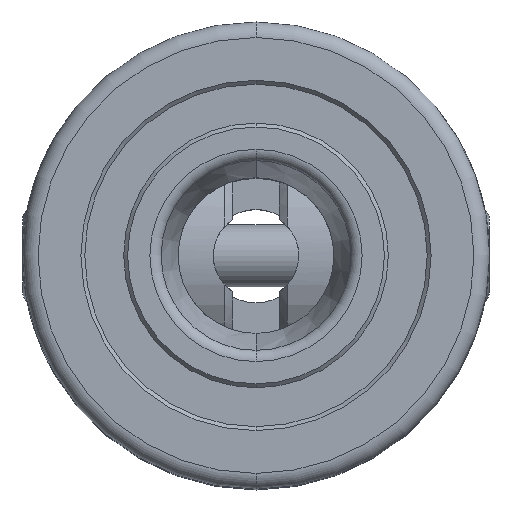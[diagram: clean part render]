
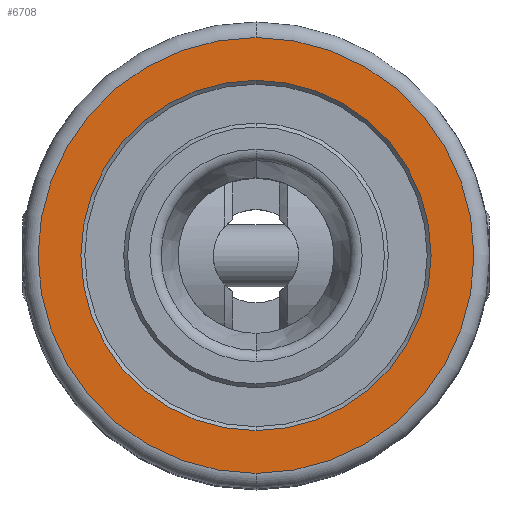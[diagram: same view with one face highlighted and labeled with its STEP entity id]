
A CAD part, top view. The second image highlights one B-rep face of the part: STEP entity #6708.
In plain terms, the highlighted planar face has unit normal (0, 0, 1).
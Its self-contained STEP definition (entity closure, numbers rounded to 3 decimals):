
#60 = CIRCLE ( 'NONE', #7307, 22.5 ) ;
#89 = ORIENTED_EDGE ( 'NONE', *, *, #5779, .T. ) ;
#759 = CIRCLE ( 'NONE', #8491, 28. ) ;
#761 = CIRCLE ( 'NONE', #7845, 22.5 ) ;
#1566 = DIRECTION ( 'NONE',  ( 0., -1., 0. ) ) ;
#1796 = ORIENTED_EDGE ( 'NONE', *, *, #8116, .T. ) ;
#1845 = EDGE_LOOP ( 'NONE', ( #5155, #1796 ) ) ;
#2120 = DIRECTION ( 'NONE',  ( 0., -1., 0. ) ) ;
#2125 = EDGE_CURVE ( 'NONE', #8224, #2561, #60, .T. ) ;
#2331 = VERTEX_POINT ( 'NONE', #8205 ) ;
#2561 = VERTEX_POINT ( 'NONE', #8454 ) ;
#2622 = DIRECTION ( 'NONE',  ( 0., 0., -1. ) ) ;
#3128 = CARTESIAN_POINT ( 'NONE',  ( 0., 0., 80. ) ) ;
#3614 = CARTESIAN_POINT ( 'NONE',  ( 0., 0., 80. ) ) ;
#3665 = ORIENTED_EDGE ( 'NONE', *, *, #2125, .T. ) ;
#4139 = AXIS2_PLACEMENT_3D ( 'NONE', #3128, #5651, #1566 ) ;
#4330 = DIRECTION ( 'NONE',  ( 0., 1., 0. ) ) ;
#4879 = CARTESIAN_POINT ( 'NONE',  ( 0., 0., 80. ) ) ;
#5155 = ORIENTED_EDGE ( 'NONE', *, *, #7927, .T. ) ;
#5198 = DIRECTION ( 'NONE',  ( 0., 0., 1. ) ) ;
#5286 = VERTEX_POINT ( 'NONE', #9377 ) ;
#5651 = DIRECTION ( 'NONE',  ( 0., 0., 1. ) ) ;
#5752 = AXIS2_PLACEMENT_3D ( 'NONE', #6113, #8280, #2120 ) ;
#5779 = EDGE_CURVE ( 'NONE', #2561, #8224, #761, .T. ) ;
#6113 = CARTESIAN_POINT ( 'NONE',  ( 10., 0., 80. ) ) ;
#6708 = ADVANCED_FACE ( 'NONE', ( #7426, #8989 ), #7584, .T. ) ;
#6929 = DIRECTION ( 'NONE',  ( 0., -1., 0. ) ) ;
#7105 = DIRECTION ( 'NONE',  ( 0., 1., 0. ) ) ;
#7145 = EDGE_LOOP ( 'NONE', ( #89, #3665 ) ) ;
#7307 = AXIS2_PLACEMENT_3D ( 'NONE', #3614, #2622, #4330 ) ;
#7426 = FACE_OUTER_BOUND ( 'NONE', #1845, .T. ) ;
#7580 = CARTESIAN_POINT ( 'NONE',  ( 0., 0., 80. ) ) ;
#7584 = PLANE ( 'NONE',  #5752 ) ;
#7845 = AXIS2_PLACEMENT_3D ( 'NONE', #4879, #9322, #7105 ) ;
#7927 = EDGE_CURVE ( 'NONE', #5286, #2331, #759, .T. ) ;
#8116 = EDGE_CURVE ( 'NONE', #2331, #5286, #8966, .T. ) ;
#8205 = CARTESIAN_POINT ( 'NONE',  ( 0., 28., 80. ) ) ;
#8224 = VERTEX_POINT ( 'NONE', #9677 ) ;
#8280 = DIRECTION ( 'NONE',  ( 0., 0., 1. ) ) ;
#8454 = CARTESIAN_POINT ( 'NONE',  ( 0., -22.5, 80. ) ) ;
#8491 = AXIS2_PLACEMENT_3D ( 'NONE', #7580, #5198, #6929 ) ;
#8966 = CIRCLE ( 'NONE', #4139, 28. ) ;
#8989 = FACE_BOUND ( 'NONE', #7145, .T. ) ;
#9322 = DIRECTION ( 'NONE',  ( 0., 0., -1. ) ) ;
#9377 = CARTESIAN_POINT ( 'NONE',  ( 0., -28., 80. ) ) ;
#9677 = CARTESIAN_POINT ( 'NONE',  ( 0., 22.5, 80. ) ) ;
